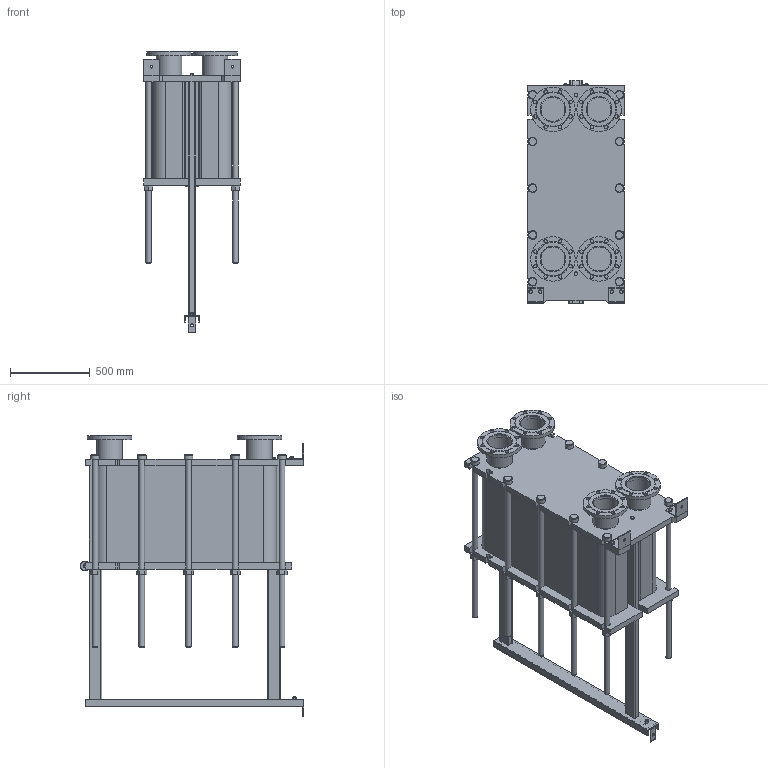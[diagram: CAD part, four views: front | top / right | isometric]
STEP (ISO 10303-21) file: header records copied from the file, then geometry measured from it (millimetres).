
FILE_DESCRIPTION(/* description */ (''),/* implementation_level */ '2;1');
FILE_NAME(/* name */ 'C:\Users\zhuro\Desktop\ENCO\TO\ЭН-041\ЭН-0,5-041-177-1.stp',/* time_stamp */ '2022-06-06T11:04:59+03:00',/* author */ ('zhuro'),/* organization */ (''),/* preprocessor_version */ 'ST-DEVELOPER v18.1',/* originating_system */ 'Autodesk Inventor 2022',/* authorisation */ '');
FILE_SCHEMA (('AUTOMOTIVE_DESIGN { 1 0 10303 214 3 1 1 }'));
Length unit declared in the file: millimetre
Products named in the file (1): ЭН-0,5-041-177-1
Bounding box: 610 x 1406.5 x 1767.5 mm (x, y, z)
Volume: 429336463.2 mm3; surface area: 10722298 mm2
Topology: 52 solids, 52 shells, 711 faces, 1696 edges, 1094 vertices
Faces by surface type: plane 487, cylinder 177, cone 41, torus 6
Full cylindrical faces by diameter (mm): 8 x4, 10 x2, 16 x8, 18 x3, 22 x32, 36 x24, 50 x1, 54 x10, 60 x12, 151 x4, 161 x8, 280 x4
Entity records: 22667 total; most frequent: CARTESIAN_POINT 5230, DIRECTION 3644, ORIENTED_EDGE 3392, EDGE_CURVE 1696, AXIS2_PLACEMENT_3D 1272, LINE 1100, VECTOR 1100, VERTEX_POINT 1094
